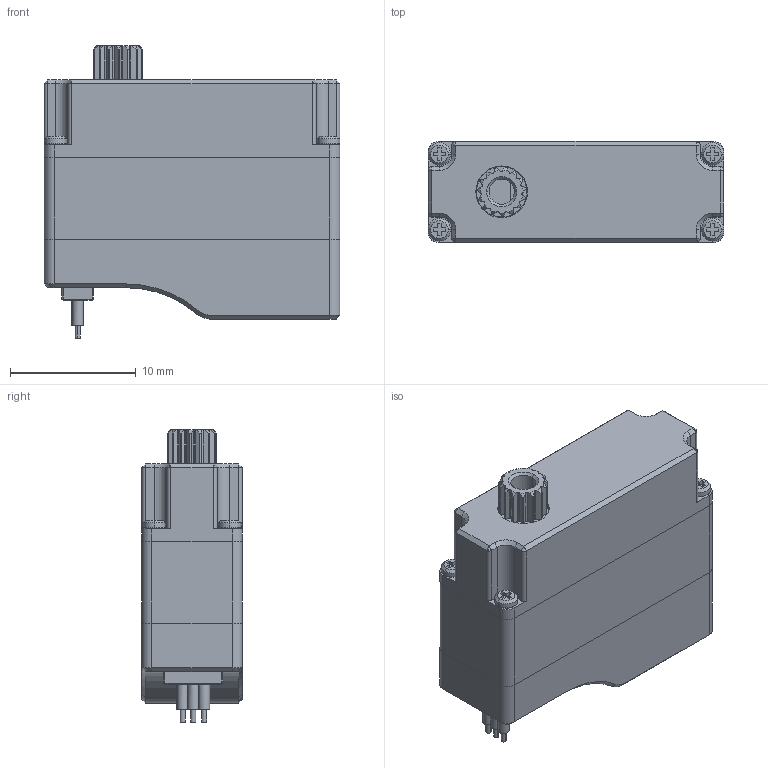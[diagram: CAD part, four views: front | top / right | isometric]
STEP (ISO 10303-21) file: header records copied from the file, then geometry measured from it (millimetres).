
FILE_DESCRIPTION (( 'STEP AP214' ), '1' );
FILE_NAME ('A08N_DM_20230419.STEP', '2023-08-03T08:56:43', ( '' ), ( '' ), 'SwSTEP 2.0', 'SolidWorks 2016', '' );
FILE_SCHEMA (( 'AUTOMOTIVE_DESIGN' ));
Length unit declared in the file: millimetre
Products named in the file (1): A08N_DM_20230419
Bounding box: 23.5 x 8 x 23.2 mm (x, y, z)
Surface area: 1701.4 mm2 (no closed solid volume)
Topology: 0 solids, 12 shells, 304 faces, 868 edges, 560 vertices
Faces by surface type: plane 162, cylinder 88, cone 46, torus 8
Entity records: 13159 total; most frequent: CARTESIAN_POINT 1818, DIRECTION 1699, ORIENTED_EDGE 1598, EDGE_CURVE 860, VECTOR 569, LINE 569, AXIS2_PLACEMENT_3D 565, VERTEX_POINT 560
